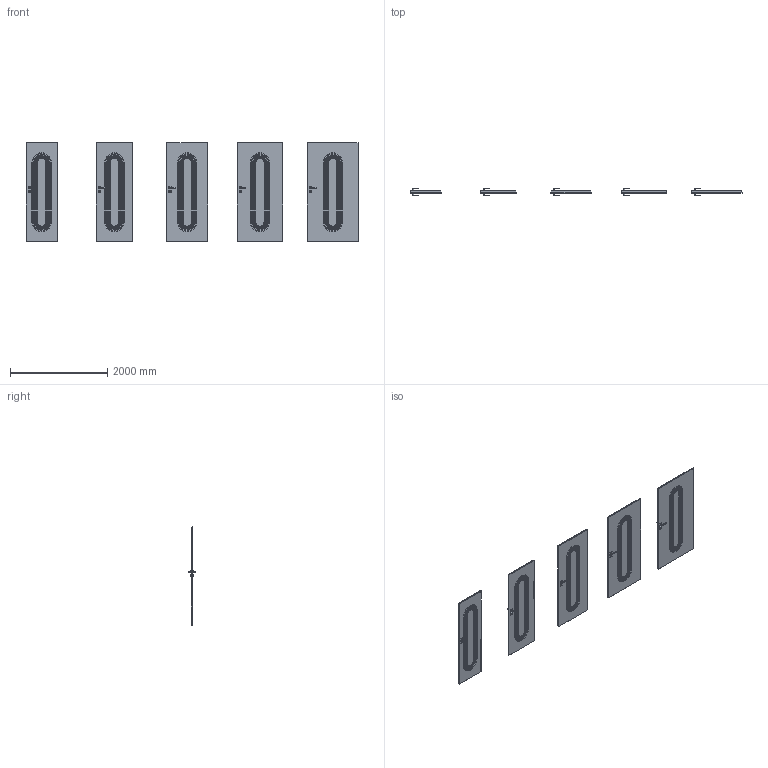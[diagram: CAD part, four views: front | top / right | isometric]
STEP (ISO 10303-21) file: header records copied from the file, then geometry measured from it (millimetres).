
FILE_DESCRIPTION(/* description */ (''),/* implementation_level */ '2;1');
FILE_NAME(/* name */ '049842_A_2-Skrzydło ART DECO model 3_ polska norma _PN__ przylgowe..stp',/* time_stamp */ '2024-09-02T10:11:43+02:00',/* author */ (''),/* organization */ (''),/* preprocessor_version */ 'ST-DEVELOPER v16',/* originating_system */ 'SIEMENS PLM Software NX 11.0',/* authorisation */ '');
FILE_SCHEMA (('AUTOMOTIVE_DESIGN { 1 0 10303 214 3 1 1 1 }'));
Products named in the file (1): bkni1684CEC86evj
Bounding box: 6844 x 153.13 x 2030 mm (x, y, z)
Volume: 326943999.4 mm3; surface area: 18567716 mm2
Topology: 25 solids, 25 shells, 2200 faces, 4910 edges, 2760 vertices
Faces by surface type: plane 680, cylinder 620, torus 400, cone 200, bspline 160, sphere 140
Entity records: 65089 total; most frequent: CARTESIAN_POINT 16751, DIRECTION 10752, ORIENTED_EDGE 9540, EDGE_CURVE 4770, AXIS2_PLACEMENT_3D 4241, VERTEX_POINT 2760, EDGE_LOOP 2360, LINE 2270
